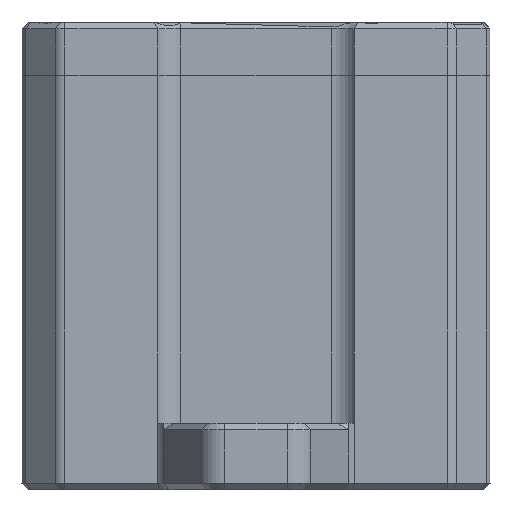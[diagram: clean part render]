
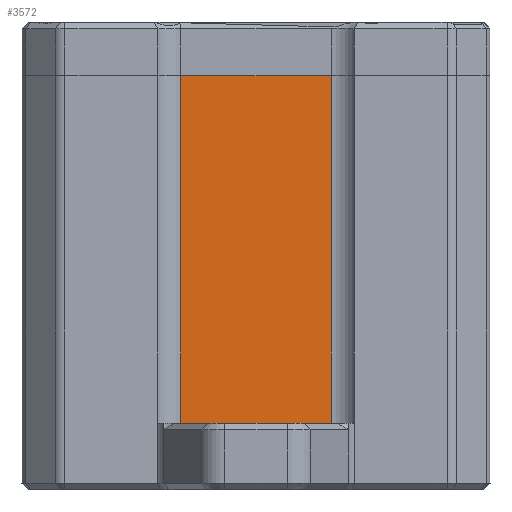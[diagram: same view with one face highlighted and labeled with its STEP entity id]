
A CAD part, left-side view. The second image highlights one B-rep face of the part: STEP entity #3572.
In plain terms, the highlighted planar face has unit normal (-1, 0, 0).
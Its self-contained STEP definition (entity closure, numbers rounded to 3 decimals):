
#416 = ORIENTED_EDGE ( 'NONE', *, *, #742, .F. ) ;
#470 = CARTESIAN_POINT ( 'NONE',  ( 10.762, -0.402, 29.737 ) ) ;
#601 = VERTEX_POINT ( 'NONE', #5792 ) ;
#742 = EDGE_CURVE ( 'NONE', #601, #3685, #2360, .T. ) ;
#924 = LINE ( 'NONE', #2134, #4915 ) ;
#1065 = VECTOR ( 'NONE', #1513, 1000. ) ;
#1143 = VERTEX_POINT ( 'NONE', #3982 ) ;
#1329 = DIRECTION ( 'NONE',  ( 0., 0., -1. ) ) ;
#1392 = CARTESIAN_POINT ( 'NONE',  ( 10.762, 10.839, 74.237 ) ) ;
#1513 = DIRECTION ( 'NONE',  ( 0., 1., 0. ) ) ;
#1612 = DIRECTION ( 'NONE',  ( 0., -1., 0. ) ) ;
#1833 = EDGE_CURVE ( 'NONE', #2476, #1143, #924, .T. ) ;
#1920 = LINE ( 'NONE', #4580, #6138 ) ;
#2134 = CARTESIAN_POINT ( 'NONE',  ( 10.762, -0.402, 55.735 ) ) ;
#2360 = LINE ( 'NONE', #470, #1065 ) ;
#2476 = VERTEX_POINT ( 'NONE', #4760 ) ;
#2776 = VECTOR ( 'NONE', #1329, 1000. ) ;
#2966 = DIRECTION ( 'NONE',  ( 0., 0., 1. ) ) ;
#3040 = CARTESIAN_POINT ( 'NONE',  ( 10.762, 10.839, 29.737 ) ) ;
#3159 = EDGE_CURVE ( 'NONE', #601, #1143, #1920, .T. ) ;
#3462 = FACE_OUTER_BOUND ( 'NONE', #4439, .T. ) ;
#3467 = EDGE_CURVE ( 'NONE', #2476, #3685, #3867, .T. ) ;
#3485 = ORIENTED_EDGE ( 'NONE', *, *, #3467, .T. ) ;
#3572 = ADVANCED_FACE ( 'NONE', ( #3462 ), #5380, .T. ) ;
#3685 = VERTEX_POINT ( 'NONE', #3040 ) ;
#3867 = LINE ( 'NONE', #1392, #2776 ) ;
#3907 = DIRECTION ( 'NONE',  ( -1., 0., 0. ) ) ;
#3982 = CARTESIAN_POINT ( 'NONE',  ( 10.762, -0.402, 55.735 ) ) ;
#4439 = EDGE_LOOP ( 'NONE', ( #416, #5421, #5156, #3485 ) ) ;
#4550 = AXIS2_PLACEMENT_3D ( 'NONE', #6342, #3907, #2966 ) ;
#4580 = CARTESIAN_POINT ( 'NONE',  ( 10.762, -0.402, 74.237 ) ) ;
#4760 = CARTESIAN_POINT ( 'NONE',  ( 10.762, 10.839, 55.735 ) ) ;
#4915 = VECTOR ( 'NONE', #1612, 1000. ) ;
#5000 = DIRECTION ( 'NONE',  ( 0., 0., 1. ) ) ;
#5156 = ORIENTED_EDGE ( 'NONE', *, *, #1833, .F. ) ;
#5380 = PLANE ( 'NONE',  #4550 ) ;
#5421 = ORIENTED_EDGE ( 'NONE', *, *, #3159, .T. ) ;
#5792 = CARTESIAN_POINT ( 'NONE',  ( 10.762, -0.402, 29.737 ) ) ;
#6138 = VECTOR ( 'NONE', #5000, 1000. ) ;
#6342 = CARTESIAN_POINT ( 'NONE',  ( 10.762, 12.571, 74.237 ) ) ;
